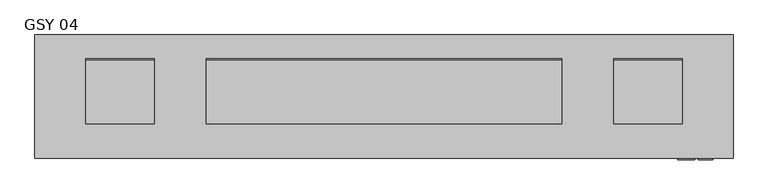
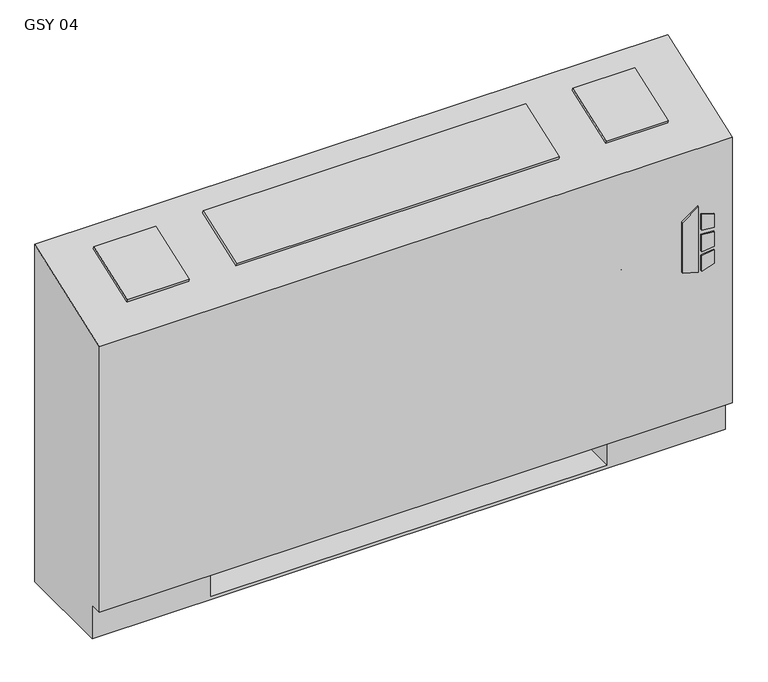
"""IFC4 building model written with IfcOpenShell, lengths in millimetres: proxy geometry, Vertical_Fan_Coil_Unit_-_GSY_-_IEC_-_2-Pipe_TS-FR_RH_2022 : GSY 04."""

from ifc_helpers import new_model, si_unit, point, frame, frame_2d, origin, place, context, project, spatial, polyline, circle_curve, trimmed, segment, composite_curve, outline, extrude, source, transform, mapped, element, save
from ifc_brep_helpers import plane_surface, revolved_surface, advanced_brep


def gsy_04_33b4b88a(model_context):
    return source(origin(), model_context, "Body", "SolidModel", [
        extrude(outline(polyline([(391.6086829, 696.9868862), (381.6606126, 729.1602728), (523.831537, 729.1602728), (500.8095309, 696.9868862), (391.6086829, 696.9868862)])), frame((0.0, 12.7, 0.0), z_axis=(0.0, 1.0, 0.0), x_axis=(0.0, 0.0, 1.0)), (0.0, 0.0, 1.0), 3.175),
        extrude(outline(polyline([(470.6079683, 735.9186058), (467.4055757, 762.0), (496.6344168, 762.0), (504.6988318, 735.9186058), (470.6079683, 735.9186058)])), frame((0.0, 12.7, 0.0), z_axis=(0.0, 1.0, 0.0), x_axis=(0.0, 0.0, 1.0)), (0.0, 0.0, 1.0), 3.175),
        extrude(outline(polyline([(418.7444414, 762.0), (415.0789404, 735.9186058), (381.6606126, 735.9186058), (390.2948498, 762.0), (418.7444414, 762.0)])), frame((0.0, 12.7, 0.0), z_axis=(0.0, 1.0, 0.0), x_axis=(0.0, 0.0, 1.0)), (0.0, 0.0, 1.0), 3.175),
        extrude(outline(polyline([(458.0596028, 762.0), (460.3414292, 735.9186058), (424.4038806, 735.9186058), (427.1451456, 762.0), (458.0596028, 762.0)])), frame((0.0, 12.7, 0.0), z_axis=(0.0, 1.0, 0.0), x_axis=(0.0, 0.0, 1.0)), (0.0, 0.0, 1.0), 3.175),
        extrude(outline(polyline([(0.0, -126.2347031), (0.0, 0.0), (127.0, 0.0), (127.0, -126.2347031), (0.0, -126.2347031)])), frame((-401.193, 200.4217127, 714.3418685), z_axis=(0.0, -0.33964446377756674, 0.9405538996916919), x_axis=(1.0, 0.0, 0.0)), (0.0, 0.0, 1.0), 6.35),
        extrude(outline(polyline([(0.0, -126.2347031), (0.0, 0.0), (660.4, 0.0), (660.4, -126.2347031), (0.0, -126.2347031)])), frame((482.6, 81.6911704, 671.4669504), z_axis=(0.0, -0.3396444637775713, 0.9405538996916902), x_axis=(-1.0, 0.0, 0.0)), (0.0, 0.0, 1.0), 6.35),
        extrude(outline(polyline([(0.0, -126.2347031), (0.0, 0.0), (127.0, 0.0), (127.0, -126.2347031), (0.0, -126.2347031)])), frame((705.993, 81.6911704, 671.4669504), z_axis=(0.0, -0.3396444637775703, 0.9405538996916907), x_axis=(-1.0, 0.0, 0.0)), (0.0, 0.0, 1.0), 6.35),
        extrude(outline(polyline([(-374.65, 81.534), (-374.65, 223.266), (-127.0, 223.266), (-127.0, 81.534), (-374.65, 81.534)])), frame((0.0, 0.0, 327.025), z_axis=(0.0, 0.0, 1.0), x_axis=(1.0, 0.0, 0.0)), (0.0, 0.0, 1.0), 260.35),
        extrude(outline(composite_curve([segment(trimmed(circle_curve(frame_2d((80.645, 397.002)), 7.9375), [point((80.645, 404.9395))], [point((80.645, 389.0645))], False, "CARTESIAN"), True, "CONTINUOUS"), segment(trimmed(circle_curve(frame_2d((80.645, 397.002)), 7.9375), [point((80.645, 389.0645))], [point((80.645, 404.9395))], False, "CARTESIAN"), True, "CONTINUOUS")], self_intersect=False)), frame((558.8, 0.0, 0.0), z_axis=(1.0, 0.0, 0.0), x_axis=(0.0, 1.0, 0.0)), (0.0, 0.0, 1.0), 50.8),
        extrude(outline(composite_curve([segment(trimmed(circle_curve(frame_2d((156.8958, 535.8892)), 7.9375), [point((156.8958, 543.8267))], [point((156.8958, 527.9517))], False, "CARTESIAN"), True, "CONTINUOUS"), segment(trimmed(circle_curve(frame_2d((156.8958, 535.8892)), 7.9375), [point((156.8958, 527.9517))], [point((156.8958, 543.8267))], False, "CARTESIAN"), True, "CONTINUOUS")], self_intersect=False)), frame((558.8, 0.0, 0.0), z_axis=(1.0, 0.0, 0.0), x_axis=(0.0, 1.0, 0.0)), (0.0, 0.0, 1.0), 50.8),
        advanced_brep(
        [(-495.3, 244.475, 0.0), (800.1, 244.475, 0.0), (800.1, 41.275, 0.0), (-495.3, 41.275, 0.0), (-495.3, 244.475, 730.25), (800.1, 244.475, 730.25), (558.8, 244.475, 73.025), (787.4, 244.475, 73.025), (787.4, 244.475, 654.05), (558.8, 244.475, 654.05), (558.8, 244.475, 414.8650565), (587.375, 244.475, 414.8650565), (587.375, 244.475, 385.2349435), (558.8, 244.475, 385.2349435), (558.8, 244.475, 287.3375), (587.375, 244.475, 287.3375), (587.375, 244.475, 258.7625), (558.8, 244.475, 258.7625), (558.8, 244.475, 141.2875), (587.375, 244.475, 141.2875), (587.375, 244.475, 112.7125), (558.8, 244.475, 112.7125), (-254.0, 244.475, 654.05), (-482.6, 244.475, 654.05), (-482.6, 244.475, 73.025), (-254.0, 244.475, 73.025), (-254.0, 244.475, 112.7125), (-282.575, 244.475, 112.7125), (-282.575, 244.475, 141.2875), (-254.0, 244.475, 141.2875), (-254.0, 244.475, 258.7625), (-282.575, 244.475, 258.7625), (-282.575, 244.475, 287.3375), (-254.0, 244.475, 287.3375), (-254.0, 244.475, 385.2349435), (-282.575, 244.475, 385.2349435), (-282.575, 244.475, 414.8650565), (-254.0, 244.475, 414.8650565), (577.0626, 244.475, 127.0), (565.9374, 244.475, 127.0), (577.0626, 244.475, 400.05), (565.9374, 244.475, 400.05), (577.0626, 244.475, 273.05), (565.9374, 244.475, 273.05), (-261.1374, 244.475, 127.0), (-272.2626, 244.475, 127.0), (-261.1374, 244.475, 273.05), (-272.2626, 244.475, 273.05), (-261.1374, 244.475, 400.05), (-272.2626, 244.475, 400.05), (-495.3, 41.275, 73.025), (-495.3, 15.875, 73.025), (-495.3, 15.875, 647.7), (800.1, 15.875, 73.025), (800.1, 15.875, 647.7), (800.1, 41.275, 73.025), (-254.0, 41.275, 73.025), (-254.0, 225.425, 73.025), (558.8, 225.425, 73.025), (558.8, 41.275, 73.025), (558.8, 41.275, 6.35), (-254.0, 41.275, 6.35), (558.8, 41.275, 654.05), (787.4, 41.275, 654.05), (787.4, 41.275, 73.025), (558.8, 41.275, 73.025), (-254.0, 41.275, 654.05), (-254.0, 41.275, 73.025), (-482.6, 41.275, 73.025), (-482.6, 41.275, 654.05), (558.8, 225.425, 73.025), (558.8, 238.125, 112.7125), (558.8, 238.125, 141.2875), (558.8, 238.125, 258.7625), (558.8, 238.125, 287.3375), (558.8, 238.125, 385.2349435), (558.8, 238.125, 414.8650565), (-254.0, 225.425, 73.025), (-254.0, 238.125, 414.8650565), (-254.0, 238.125, 385.2349435), (-254.0, 238.125, 287.3375), (-254.0, 238.125, 258.7625), (-254.0, 238.125, 141.2875), (-254.0, 238.125, 112.7125), (-254.0, 225.425, 6.35), (558.8, 225.425, 6.35), (587.375, 238.125, 112.7125), (587.375, 238.125, 141.2875), (565.9374, 238.125, 127.0), (577.0626, 238.125, 127.0), (587.375, 238.125, 258.7625), (587.375, 238.125, 287.3375), (565.9374, 238.125, 273.05), (577.0626, 238.125, 273.05), (587.375, 238.125, 385.2349435), (587.375, 238.125, 414.8650565), (565.9374, 238.125, 400.05), (577.0626, 238.125, 400.05), (-282.575, 238.125, 141.2875), (-282.575, 238.125, 112.7125), (-272.2626, 238.125, 127.0), (-261.1374, 238.125, 127.0), (-282.575, 238.125, 287.3375), (-282.575, 238.125, 258.7625), (-272.2626, 238.125, 273.05), (-261.1374, 238.125, 273.05), (-282.575, 238.125, 414.8650565), (-282.575, 238.125, 385.2349435), (-272.2626, 238.125, 400.05), (-261.1374, 238.125, 400.05)],
        [
            (0, 1),
            (1, 2),
            (2, 3),
            (3, 0),
            (0, 4),
            (4, 5),
            (5, 1),
            (6, 7),
            (7, 8),
            (8, 9),
            (9, 10),
            (10, 11),
            (11, 12),
            (12, 13),
            (13, 14),
            (14, 15),
            (15, 16),
            (16, 17),
            (17, 18),
            (18, 19),
            (19, 20),
            (20, 21),
            (21, 6),
            (22, 23),
            (23, 24),
            (24, 25),
            (25, 26),
            (26, 27),
            (27, 28),
            (28, 29),
            (29, 30),
            (30, 31),
            (31, 32),
            (32, 33),
            (33, 34),
            (34, 35),
            (35, 36),
            (36, 37),
            (37, 22),
            (38, 39, circle_curve(frame((571.5, 244.475, 127.0), z_axis=(0.0, -1.0, 0.0), x_axis=(-1.0, 0.0, 0.0)), 5.5626)),
            (39, 38, circle_curve(frame((571.5, 244.475, 127.0), z_axis=(0.0, -1.0, 0.0), x_axis=(-1.0, 0.0, 0.0)), 5.5626)),
            (40, 41, circle_curve(frame((571.5, 244.475, 400.05), z_axis=(0.0, -1.0, 0.0), x_axis=(-1.0, 0.0, 0.0)), 5.5626)),
            (41, 40, circle_curve(frame((571.5, 244.475, 400.05), z_axis=(0.0, -1.0, 0.0), x_axis=(-1.0, 0.0, 0.0)), 5.5626)),
            (42, 43, circle_curve(frame((571.5, 244.475, 273.05), z_axis=(0.0, -1.0, 0.0), x_axis=(-1.0, 0.0, 0.0)), 5.5626)),
            (43, 42, circle_curve(frame((571.5, 244.475, 273.05), z_axis=(0.0, -1.0, 0.0), x_axis=(-1.0, 0.0, 0.0)), 5.5626)),
            (44, 45, circle_curve(frame((-266.7, 244.475, 127.0), z_axis=(0.0, -1.0, 0.0), x_axis=(-1.0, 0.0, 0.0)), 5.5626)),
            (45, 44, circle_curve(frame((-266.7, 244.475, 127.0), z_axis=(0.0, -1.0, 0.0), x_axis=(-1.0, 0.0, 0.0)), 5.5626)),
            (46, 47, circle_curve(frame((-266.7, 244.475, 273.05), z_axis=(0.0, -1.0, 0.0), x_axis=(-1.0, 0.0, 0.0)), 5.5626)),
            (47, 46, circle_curve(frame((-266.7, 244.475, 273.05), z_axis=(0.0, -1.0, 0.0), x_axis=(-1.0, 0.0, 0.0)), 5.5626)),
            (48, 49, circle_curve(frame((-266.7, 244.475, 400.05), z_axis=(0.0, -1.0, 0.0), x_axis=(-1.0, 0.0, 0.0)), 5.5626)),
            (49, 48, circle_curve(frame((-266.7, 244.475, 400.05), z_axis=(0.0, -1.0, 0.0), x_axis=(-1.0, 0.0, 0.0)), 5.5626)),
            (3, 50),
            (50, 51),
            (51, 52),
            (52, 4),
            (51, 53),
            (53, 54),
            (54, 52),
            (5, 54),
            (53, 55),
            (55, 2),
            (50, 56),
            (56, 57),
            (57, 58),
            (58, 59),
            (59, 55),
            (59, 60),
            (60, 61),
            (61, 56),
            (62, 63),
            (63, 64),
            (64, 65),
            (65, 62),
            (66, 67),
            (67, 68),
            (68, 69),
            (69, 66),
            (65, 70),
            (70, 6),
            (21, 71),
            (71, 72),
            (72, 18),
            (17, 73),
            (73, 74),
            (74, 14),
            (13, 75),
            (75, 76),
            (76, 10),
            (9, 62),
            (64, 7),
            (63, 8),
            (69, 23),
            (22, 66),
            (68, 24),
            (67, 77),
            (77, 25),
            (37, 78),
            (78, 79),
            (79, 34),
            (33, 80),
            (80, 81),
            (81, 30),
            (29, 82),
            (82, 83),
            (83, 26),
            (57, 84),
            (84, 85),
            (85, 58),
            (85, 60),
            (84, 61),
            (71, 86),
            (86, 87),
            (87, 72),
            (88, 89, circle_curve(frame((571.5, 238.125, 127.0), z_axis=(0.0, 1.0, 0.0), x_axis=(-1.0, 0.0, 0.0)), 5.5626)),
            (89, 88, circle_curve(frame((571.5, 238.125, 127.0), z_axis=(0.0, 1.0, 0.0), x_axis=(-1.0, 0.0, 0.0)), 5.5626)),
            (73, 90),
            (90, 91),
            (91, 74),
            (92, 93, circle_curve(frame((571.5, 238.125, 273.05), z_axis=(0.0, 1.0, 0.0), x_axis=(-1.0, 0.0, 0.0)), 5.5626)),
            (93, 92, circle_curve(frame((571.5, 238.125, 273.05), z_axis=(0.0, 1.0, 0.0), x_axis=(-1.0, 0.0, 0.0)), 5.5626)),
            (75, 94),
            (94, 95),
            (95, 76),
            (96, 97, circle_curve(frame((571.5, 238.125, 400.05), z_axis=(0.0, 1.0, 0.0), x_axis=(-1.0, 0.0, 0.0)), 5.5626)),
            (97, 96, circle_curve(frame((571.5, 238.125, 400.05), z_axis=(0.0, 1.0, 0.0), x_axis=(-1.0, 0.0, 0.0)), 5.5626)),
            (98, 99),
            (99, 83),
            (82, 98),
            (100, 101, circle_curve(frame((-266.7, 238.125, 127.0), z_axis=(0.0, 1.0, 0.0), x_axis=(-1.0, 0.0, 0.0)), 5.5626)),
            (101, 100, circle_curve(frame((-266.7, 238.125, 127.0), z_axis=(0.0, 1.0, 0.0), x_axis=(-1.0, 0.0, 0.0)), 5.5626)),
            (102, 103),
            (103, 81),
            (80, 102),
            (104, 105, circle_curve(frame((-266.7, 238.125, 273.05), z_axis=(0.0, 1.0, 0.0), x_axis=(-1.0, 0.0, 0.0)), 5.5626)),
            (105, 104, circle_curve(frame((-266.7, 238.125, 273.05), z_axis=(0.0, 1.0, 0.0), x_axis=(-1.0, 0.0, 0.0)), 5.5626)),
            (106, 107),
            (107, 79),
            (78, 106),
            (108, 109, circle_curve(frame((-266.7, 238.125, 400.05), z_axis=(0.0, 1.0, 0.0), x_axis=(-1.0, 0.0, 0.0)), 5.5626)),
            (109, 108, circle_curve(frame((-266.7, 238.125, 400.05), z_axis=(0.0, 1.0, 0.0), x_axis=(-1.0, 0.0, 0.0)), 5.5626)),
            (87, 19),
            (86, 20),
            (91, 15),
            (90, 16),
            (95, 11),
            (94, 12),
            (28, 98),
            (99, 27),
            (32, 102),
            (103, 31),
            (36, 106),
            (107, 35),
            (88, 39),
            (38, 89),
            (96, 41),
            (40, 97),
            (92, 43),
            (42, 93),
            (100, 45),
            (44, 101),
            (104, 47),
            (46, 105),
            (108, 49),
            (48, 109),
        ],
        [
            plane_surface(frame((-495.3, 244.475, 0.0), z_axis=(0.0, 0.0, -1.0), x_axis=(1.0, 0.0, 0.0))),
            plane_surface(frame((800.1, 244.475, 730.25), z_axis=(0.0, 1.0, 0.0), x_axis=(0.0, 0.0, -1.0))),
            plane_surface(frame((-495.3, 244.475, 730.25), z_axis=(-1.0, 0.0, 0.0), x_axis=(0.0, 0.0, -1.0))),
            plane_surface(frame((-495.3, 15.875, 730.25), z_axis=(0.0, -1.0, 0.0), x_axis=(0.0, 0.0, -1.0))),
            plane_surface(frame((800.1, 15.875, 730.25), z_axis=(1.0, 0.0, 0.0), x_axis=(0.0, 0.0, -1.0))),
            plane_surface(frame((-495.3, 15.875, 73.025), z_axis=(0.0, 0.0, -1.0), x_axis=(1.0, 0.0, 0.0))),
            plane_surface(frame((-495.3, 41.275, 73.025), z_axis=(0.0, -1.0, 0.0), x_axis=(1.0, 0.0, 0.0))),
            plane_surface(frame((558.8, 41.275, 654.05), z_axis=(0.0, 1.0, 0.0), x_axis=(0.0, 0.0, -1.0))),
            plane_surface(frame((558.8, 41.275, 654.05), z_axis=(1.0, 0.0, 0.0), x_axis=(0.0, 1.0, 0.0))),
            plane_surface(frame((558.8, 41.275, 73.025), z_axis=(0.0, 0.0, 1.0), x_axis=(0.0, 1.0, 0.0))),
            plane_surface(frame((787.4, 41.275, 73.025), z_axis=(-1.0, 0.0, 0.0), x_axis=(0.0, 1.0, 0.0))),
            plane_surface(frame((787.4, 41.275, 654.05), z_axis=(0.0, 0.0, -1.0), x_axis=(0.0, 1.0, 0.0))),
            plane_surface(frame((-254.0, 41.275, 654.05), z_axis=(0.0, 0.0, -1.0), x_axis=(0.0, 1.0, 0.0))),
            plane_surface(frame((-482.6, 41.275, 654.05), z_axis=(1.0, 0.0, 0.0), x_axis=(0.0, 1.0, 0.0))),
            plane_surface(frame((-482.6, 41.275, 73.025), z_axis=(0.0, 0.0, 1.0), x_axis=(0.0, 1.0, 0.0))),
            plane_surface(frame((-254.0, 41.275, 73.025), z_axis=(-1.0, 0.0, 0.0), x_axis=(0.0, 1.0, 0.0))),
            plane_surface(frame((558.8, 225.425, 73.025), z_axis=(0.0, -1.0, 0.0), x_axis=(0.0, 0.0, -1.0))),
            plane_surface(frame((558.8, 225.425, 73.025), z_axis=(-1.0, 0.0, 0.0), x_axis=(0.0, -1.0, 0.0))),
            plane_surface(frame((558.8, 225.425, 6.35), z_axis=(0.0, 0.0, 1.0), x_axis=(0.0, -1.0, 0.0))),
            plane_surface(frame((-254.0, 225.425, 6.35), z_axis=(1.0, 0.0, 0.0), x_axis=(0.0, -1.0, 0.0))),
            plane_surface(frame((587.375, 238.125, 141.2875), z_axis=(0.0, -1.0, 0.0), x_axis=(-1.0, 0.0, 0.0))),
            plane_surface(frame((558.8, 244.475, 141.2875), z_axis=(0.0, 0.0, 1.0), x_axis=(0.0, -1.0, 0.0))),
            plane_surface(frame((587.375, 244.475, 141.2875), z_axis=(1.0, 0.0, 0.0), x_axis=(0.0, -1.0, 0.0))),
            plane_surface(frame((587.375, 244.475, 112.7125), z_axis=(0.0, 0.0, -1.0), x_axis=(0.0, -1.0, 0.0))),
            plane_surface(frame((558.8, 244.475, 287.3375), z_axis=(0.0, 0.0, 1.0), x_axis=(0.0, -1.0, 0.0))),
            plane_surface(frame((587.375, 244.475, 287.3375), z_axis=(1.0, 0.0, 0.0), x_axis=(0.0, -1.0, 0.0))),
            plane_surface(frame((587.375, 244.475, 258.7625), z_axis=(0.0, 0.0, -1.0), x_axis=(0.0, -1.0, 0.0))),
            plane_surface(frame((558.8, 244.475, 414.8650565), z_axis=(0.0, 0.0, 1.0), x_axis=(0.0, -1.0, 0.0))),
            plane_surface(frame((587.375, 244.475, 414.8650565), z_axis=(1.0, 0.0, 0.0), x_axis=(0.0, -1.0, 0.0))),
            plane_surface(frame((587.375, 244.475, 385.2349435), z_axis=(0.0, 0.0, -1.0), x_axis=(0.0, -1.0, 0.0))),
            plane_surface(frame((-282.575, 244.475, 141.2875), z_axis=(0.0, 0.0, 1.0), x_axis=(0.0, -1.0, 0.0))),
            plane_surface(frame((-254.0, 244.475, 112.7125), z_axis=(0.0, 0.0, -1.0), x_axis=(0.0, -1.0, 0.0))),
            plane_surface(frame((-282.575, 244.475, 112.7125), z_axis=(-1.0, 0.0, 0.0), x_axis=(0.0, -1.0, 0.0))),
            plane_surface(frame((-282.575, 244.475, 287.3375), z_axis=(0.0, 0.0, 1.0), x_axis=(0.0, -1.0, 0.0))),
            plane_surface(frame((-254.0, 244.475, 258.7625), z_axis=(0.0, 0.0, -1.0), x_axis=(0.0, -1.0, 0.0))),
            plane_surface(frame((-282.575, 244.475, 258.7625), z_axis=(-1.0, 0.0, 0.0), x_axis=(0.0, -1.0, 0.0))),
            plane_surface(frame((-282.575, 244.475, 414.8650565), z_axis=(0.0, 0.0, 1.0), x_axis=(0.0, -1.0, 0.0))),
            plane_surface(frame((-254.0, 244.475, 385.2349435), z_axis=(0.0, 0.0, -1.0), x_axis=(0.0, -1.0, 0.0))),
            plane_surface(frame((-282.575, 244.475, 385.2349435), z_axis=(-1.0, 0.0, 0.0), x_axis=(0.0, -1.0, 0.0))),
            revolved_surface(polyline([(565.9374, 238.125, 127.0), (565.9374, 244.475, 127.0)]), (571.5, 244.475, 127.0), (0.0, -1.0, 0.0)),
            revolved_surface(polyline([(565.9374, 238.125, 400.05), (565.9374, 244.475, 400.05)]), (571.5, 244.475, 400.05), (0.0, -1.0, 0.0)),
            revolved_surface(polyline([(565.9374, 238.125, 273.05), (565.9374, 244.475, 273.05)]), (571.5, 244.475, 273.05), (0.0, -1.0, 0.0)),
            revolved_surface(polyline([(-272.26259999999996, 238.125, 127.0), (-272.26259999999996, 244.475, 127.0)]), (-266.7, 244.475, 127.0), (0.0, -1.0, 0.0)),
            revolved_surface(polyline([(-272.26259999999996, 238.125, 273.05), (-272.26259999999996, 244.475, 273.05)]), (-266.7, 244.475, 273.05), (0.0, -1.0, 0.0)),
            revolved_surface(polyline([(-272.26259999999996, 238.125, 400.05), (-272.26259999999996, 244.475, 400.05)]), (-266.7, 244.475, 400.05), (0.0, -1.0, 0.0)),
            plane_surface(frame((-495.3, 244.475, 730.25), z_axis=(0.0, -0.33964446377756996, 0.9405538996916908), x_axis=(1.0, 0.0, 0.0))),
        ],
        [
            (0, [[1, 2, 3, 4]]),
            (1, [[-1, 5, 6, 7], [8, 9, 10, 11, 12, 13, 14, 15, 16, 17, 18, 19, 20, 21, 22, 23], [24, 25, 26, 27, 28, 29, 30, 31, 32, 33, 34, 35, 36, 37, 38, 39], [40, 41], [42, 43], [44, 45], [46, 47], [48, 49], [50, 51]]),
            (2, [[-5, -4, 52, 53, 54, 55]]),
            (3, [[56, 57, 58, -54]]),
            (4, [[-7, 59, -57, 60, 61, -2]]),
            (5, [[-53, 62, 63, 64, 65, 66, -60, -56]]),
            (6, [[-3, -61, -66, 67, 68, 69, -62, -52]]),
            (7, [[70, 71, 72, 73]]),
            (7, [[74, 75, 76, 77]]),
            (8, [[-73, 78, 79, -23, 80, 81, 82, -19, 83, 84, 85, -15, 86, 87, 88, -11, 89]]),
            (9, [[-72, 90, -8, -79, -78]]),
            (10, [[-71, 91, -9, -90]]),
            (11, [[-70, -89, -10, -91]]),
            (12, [[-77, 92, -24, 93]]),
            (13, [[-76, 94, -25, -92]]),
            (14, [[-75, 95, 96, -26, -94]]),
            (15, [[-74, -93, -39, 97, 98, 99, -35, 100, 101, 102, -31, 103, 104, 105, -27, -96, -95]]),
            (16, [[-64, 106, 107, 108]]),
            (17, [[-108, 109, -67, -65]]),
            (18, [[-107, 110, -68, -109]]),
            (19, [[-106, -63, -69, -110]]),
            (20, [[111, 112, 113, -81], [114, 115]]),
            (20, [[116, 117, 118, -84], [119, 120]]),
            (20, [[121, 122, 123, -87], [124, 125]]),
            (20, [[126, 127, -104, 128], [129, 130]]),
            (20, [[131, 132, -101, 133], [134, 135]]),
            (20, [[136, 137, -98, 138], [139, 140]]),
            (21, [[-113, 141, -20, -82]]),
            (22, [[-112, 142, -21, -141]]),
            (23, [[-111, -80, -22, -142]]),
            (24, [[-118, 143, -16, -85]]),
            (25, [[-117, 144, -17, -143]]),
            (26, [[-116, -83, -18, -144]]),
            (27, [[-123, 145, -12, -88]]),
            (28, [[-122, 146, -13, -145]]),
            (29, [[-121, -86, -14, -146]]),
            (30, [[-128, -103, -30, 147]]),
            (31, [[-127, 148, -28, -105]]),
            (32, [[-126, -147, -29, -148]]),
            (33, [[-133, -100, -34, 149]]),
            (34, [[-132, 150, -32, -102]]),
            (35, [[-131, -149, -33, -150]]),
            (36, [[-138, -97, -38, 151]]),
            (37, [[-137, 152, -36, -99]]),
            (38, [[-136, -151, -37, -152]]),
            (39, [[153, -40, 154, -114]]),
            (39, [[-153, -115, -154, -41]]),
            (40, [[155, -42, 156, -124]]),
            (40, [[-155, -125, -156, -43]]),
            (41, [[157, -44, 158, -119]]),
            (41, [[-157, -120, -158, -45]]),
            (42, [[159, -46, 160, -129]]),
            (42, [[-159, -130, -160, -47]]),
            (43, [[161, -48, 162, -134]]),
            (43, [[-161, -135, -162, -49]]),
            (44, [[163, -50, 164, -139]]),
            (44, [[-163, -140, -164, -51]]),
            (45, [[-6, -55, -58, -59]]),
        ],
    ),
    ])


if __name__ == "__main__":
    model = new_model("IFC4")
    model_context = context("Model", 3, world=origin())
    ifc_project = project(units=[si_unit("LENGTHUNIT", "METRE", prefix="MILLI")], contexts=[model_context])
    site = spatial("IfcSite", under=ifc_project)
    building = spatial("IfcBuilding", under=site)
    placement = place(None, origin())
    gsy_04_shape = gsy_04_33b4b88a(model_context)
    element("IfcBuildingElementProxy", 1, Name="Vertical_Fan_Coil_Unit_-_GSY_-_IEC_-_2-Pipe_TS-FR_RH_2022 : GSY 04", ObjectType="Vertical_Fan_Coil_Unit_-_GSY_-_IEC_-_2-Pipe_TS-FR_RH_2022 : GSY 04", at=placement, inside=building, context=model_context, shape_type="MappedRepresentation", body=[
        mapped(gsy_04_shape, transform((0.0, 0.0, 0.0), x_axis=(1.0, 0.0, 0.0), y_axis=(0.0, 1.0, 0.0), z_axis=(0.0, 0.0, 1.0))),
    ])
    save(model, "model.ifc")
